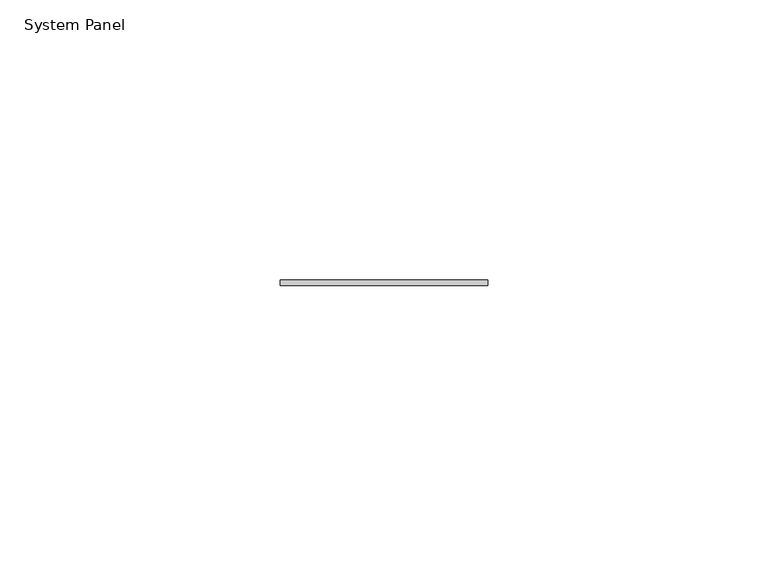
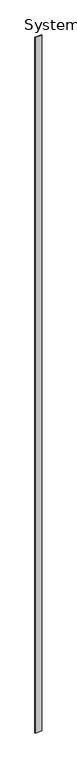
"""IFC4 building model written with IfcOpenShell, lengths in millimetres: plate geometry, System Panel : Stratco_Hiland_Interlock_Panel."""

from ifc_helpers import new_model, si_unit, origin, origin_with_axes, place, context, project, spatial, polyline, outline, extrude, source, transform, mapped, element, save


def system_panel_a97800d8(model_context):
    return source(origin(), model_context, "Body", "SweptSolid", [
        extrude(outline(polyline([(18.4999998, 24.0), (-18.4999998, 24.0), (-18.4999998, 25.0), (18.4999998, 25.0), (18.4999998, 24.0)])), origin_with_axes(), (0.0, 0.0, 1.0), 4000.0),
    ])


if __name__ == "__main__":
    model = new_model("IFC4")
    model_context = context("Model", 3, world=origin())
    ifc_project = project(units=[si_unit("LENGTHUNIT", "METRE", prefix="MILLI")], contexts=[model_context])
    site = spatial("IfcSite", under=ifc_project)
    building = spatial("IfcBuilding", under=site)
    placement = place(None, origin())
    system_panel_shape = system_panel_a97800d8(model_context)
    element("IfcPlate", 1, ObjectType="System Panel : Stratco_Hiland_Interlock_Panel", at=placement, inside=building, context=model_context, shape_type="MappedRepresentation", body=[
        mapped(system_panel_shape, transform((0.0, 0.0, 0.0), x_axis=(1.0, 0.0, 0.0), y_axis=(0.0, 1.0, 0.0), z_axis=(0.0, 0.0, 1.0))),
    ])
    save(model, "model.ifc")
